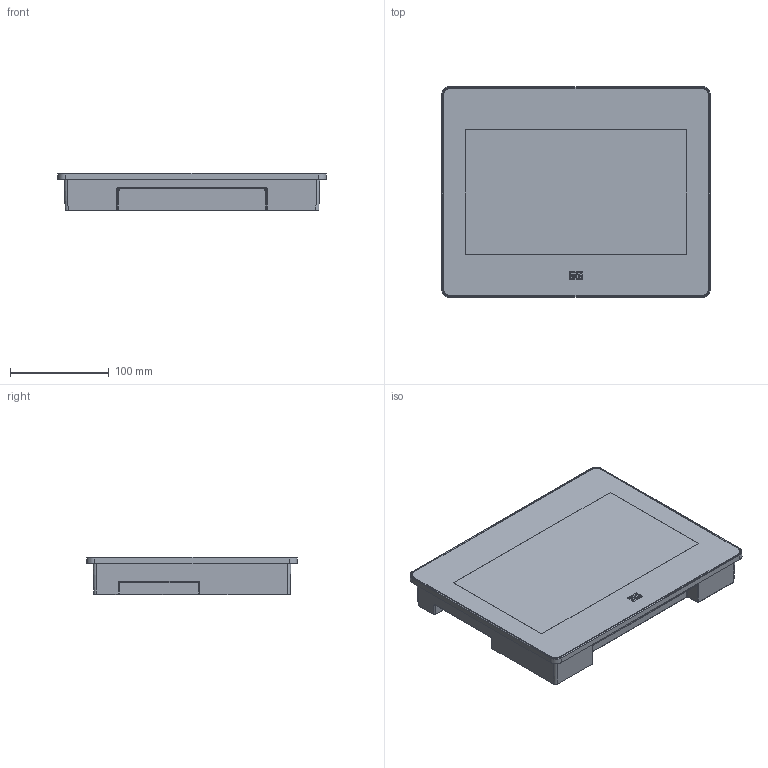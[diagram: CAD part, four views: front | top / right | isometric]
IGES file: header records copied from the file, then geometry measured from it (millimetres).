
Start section: SolidWorks IGES file using analytic representation for surfaces
Global section: file name: C:\Users\jeancg\Documents\PRODUTOS\HMI - JONAS\16280427 - CLP cMT2108X2\3D\IGS - cMT2178X2.IGS; native system: SolidWorks 2018; preprocessor: SolidWorks 2018; author: jeancg; date: 220715.125901; units: millimetre
Bounding box: 271 x 213 x 38 mm (x, y, z)
Surface area: 151902.9 mm2 (no closed solid volume)
Topology: 0 solids, 0 shells, 156 faces, 1217 edges, 1211 vertices
Faces by surface type: bspline 92, revolution 64
